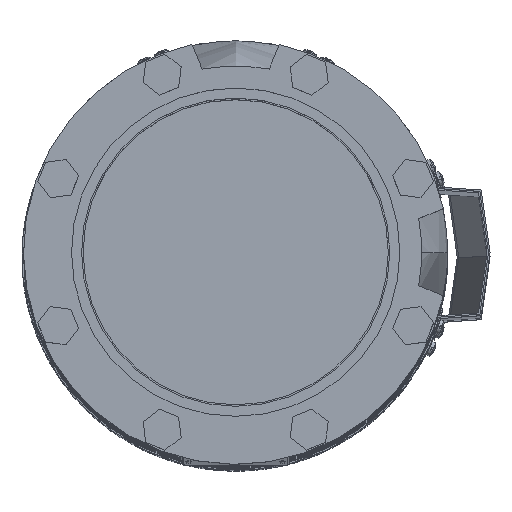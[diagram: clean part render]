
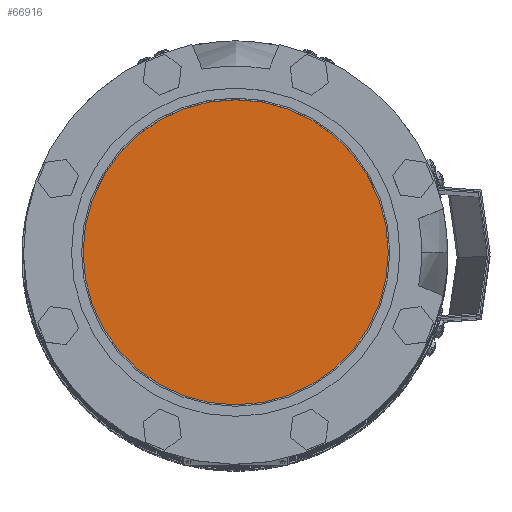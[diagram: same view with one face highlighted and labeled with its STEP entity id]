
A CAD part, top view. The second image highlights one B-rep face of the part: STEP entity #66916.
In plain terms, the highlighted planar face has unit normal (0, 0, 1) as drawn and (0, 1, 0) by its records, which use the part's own axes.
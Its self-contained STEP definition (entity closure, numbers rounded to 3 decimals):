
#608=CIRCLE('',#70522,102.5);
#609=CIRCLE('',#70523,102.5);
#16239=ORIENTED_EDGE('',*,*,#36503,.F.);
#16240=ORIENTED_EDGE('',*,*,#36504,.T.);
#36503=EDGE_CURVE('',#46635,#46636,#608,.T.);
#36504=EDGE_CURVE('',#46635,#46636,#609,.T.);
#46635=VERTEX_POINT('',#96516);
#46636=VERTEX_POINT('',#96517);
#54163=EDGE_LOOP('',(#16239,#16240));
#59026=FACE_BOUND('',#54163,.T.);
#63888=PLANE('',#70521);
#66916=ADVANCED_FACE('',(#59026),#63888,.T.);
#70521=AXIS2_PLACEMENT_3D('',#96514,#77078,#77079);
#70522=AXIS2_PLACEMENT_3D('',#96515,#77080,#77081);
#70523=AXIS2_PLACEMENT_3D('',#96518,#77082,#77083);
#77078=DIRECTION('',(0.,1.,0.));
#77079=DIRECTION('',(-1.,0.,0.));
#77080=DIRECTION('',(0.,-1.,0.));
#77081=DIRECTION('',(-1.,0.,0.));
#77082=DIRECTION('',(0.,1.,0.));
#77083=DIRECTION('',(-1.,0.,0.));
#96514=CARTESIAN_POINT('',(-109.56,216.5,0.));
#96515=CARTESIAN_POINT('',(0.,216.5,0.));
#96516=CARTESIAN_POINT('',(-102.5,216.5,0.));
#96517=CARTESIAN_POINT('',(102.5,216.5,0.));
#96518=CARTESIAN_POINT('',(0.,216.5,0.));
